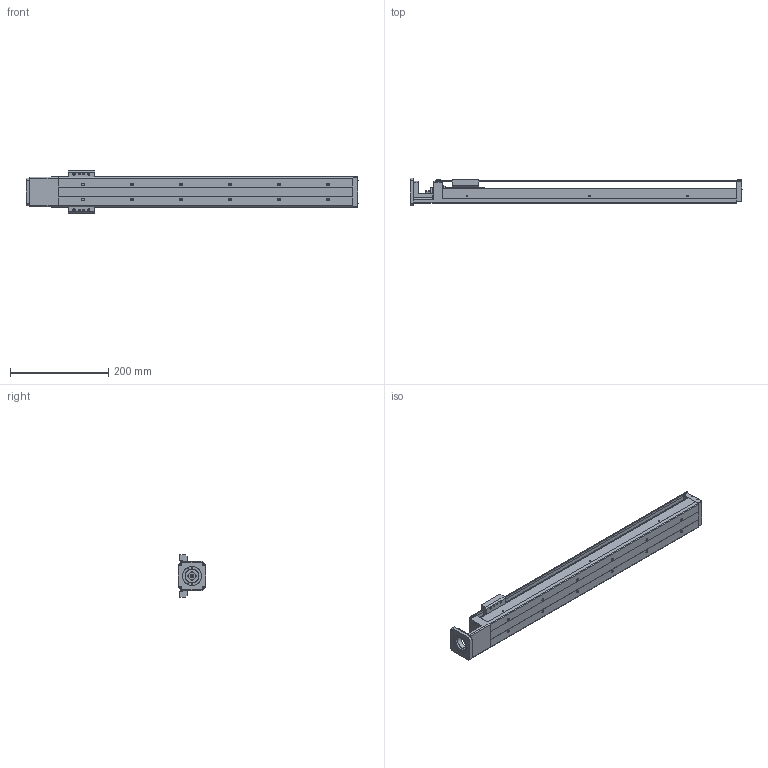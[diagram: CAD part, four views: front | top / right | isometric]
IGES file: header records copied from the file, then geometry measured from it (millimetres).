
Start section: SolidWorks IGES file using analytic representation for surfaces
Global section: file name: C:\Users\render\Documents\CAD Files\Integrated-Actuators\PA-Series\PA33\PA-33-600-23X.IGS; native system: SolidWorks 2009; preprocessor: SolidWorks 2009; author: render; date: 100610.111639; units: millimetre
Bounding box: 677 x 56.4 x 86 mm (x, y, z)
Surface area: 303934.5 mm2 (no closed solid volume)
Topology: 0 solids, 0 shells, 744 faces, 10107 edges, 10065 vertices
Faces by surface type: revolution 421, bspline 323
